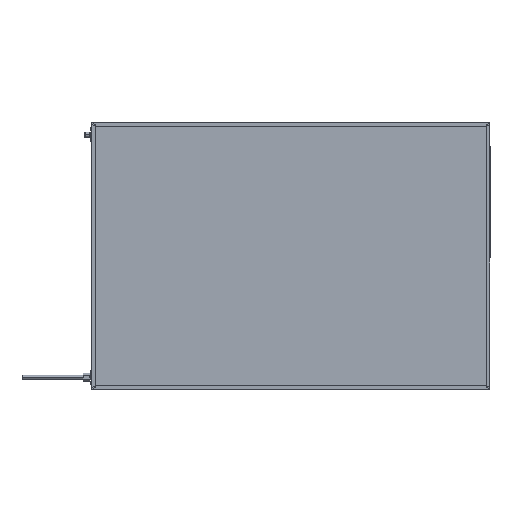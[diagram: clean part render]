
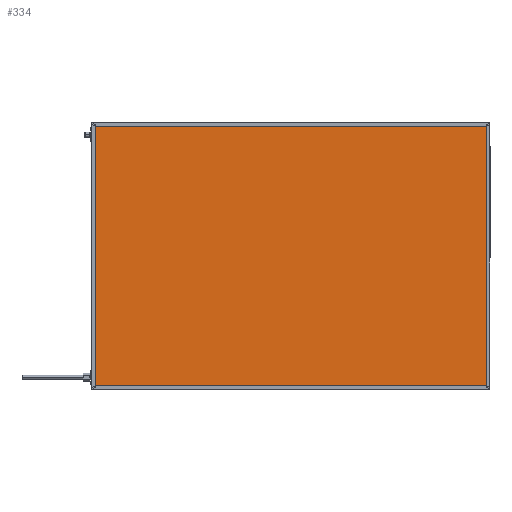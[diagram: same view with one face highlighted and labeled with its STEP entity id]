
A CAD part, top view. The second image highlights one B-rep face of the part: STEP entity #334.
In plain terms, the highlighted planar face has unit normal (0, 0, 1).
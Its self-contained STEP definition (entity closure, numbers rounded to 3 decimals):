
#334 = ADVANCED_FACE ( 'NONE', ( #14390 ), #7457, .F. ) ;
#733 = LINE ( 'NONE', #10409, #12434 ) ;
#1199 = VERTEX_POINT ( 'NONE', #14437 ) ;
#1627 = CARTESIAN_POINT ( 'NONE',  ( 0., 596., 41.85 ) ) ;
#2447 = ORIENTED_EDGE ( 'NONE', *, *, #17156, .T. ) ;
#2751 = AXIS2_PLACEMENT_3D ( 'NONE', #15851, #9184, #7360 ) ;
#2990 = LINE ( 'NONE', #14302, #10081 ) ;
#3574 = VERTEX_POINT ( 'NONE', #9454 ) ;
#5440 = EDGE_CURVE ( 'NONE', #3574, #1199, #733, .T. ) ;
#5740 = DIRECTION ( 'NONE',  ( -1., 0., 0. ) ) ;
#7360 = DIRECTION ( 'NONE',  ( -1., 0., 0. ) ) ;
#7404 = LINE ( 'NONE', #17170, #14876 ) ;
#7457 = PLANE ( 'NONE',  #2751 ) ;
#8789 = ORIENTED_EDGE ( 'NONE', *, *, #5440, .T. ) ;
#9184 = DIRECTION ( 'NONE',  ( 0., 0., -1. ) ) ;
#9377 = EDGE_CURVE ( 'NONE', #10659, #14962, #2990, .T. ) ;
#9454 = CARTESIAN_POINT ( 'NONE',  ( 896., 4., 41.85 ) ) ;
#10081 = VECTOR ( 'NONE', #14113, 1000. ) ;
#10254 = ORIENTED_EDGE ( 'NONE', *, *, #10705, .T. ) ;
#10409 = CARTESIAN_POINT ( 'NONE',  ( 896., 0., 41.85 ) ) ;
#10659 = VERTEX_POINT ( 'NONE', #13959 ) ;
#10705 = EDGE_CURVE ( 'NONE', #1199, #10659, #12679, .T. ) ;
#12434 = VECTOR ( 'NONE', #15981, 1000. ) ;
#12679 = LINE ( 'NONE', #1627, #13910 ) ;
#12976 = DIRECTION ( 'NONE',  ( 1., 0., 0. ) ) ;
#13910 = VECTOR ( 'NONE', #5740, 1000. ) ;
#13959 = CARTESIAN_POINT ( 'NONE',  ( 4., 596., 41.85 ) ) ;
#14113 = DIRECTION ( 'NONE',  ( 0., -1., 0. ) ) ;
#14302 = CARTESIAN_POINT ( 'NONE',  ( 4., 0., 41.85 ) ) ;
#14338 = EDGE_LOOP ( 'NONE', ( #8789, #10254, #14385, #2447 ) ) ;
#14385 = ORIENTED_EDGE ( 'NONE', *, *, #9377, .T. ) ;
#14390 = FACE_OUTER_BOUND ( 'NONE', #14338, .T. ) ;
#14437 = CARTESIAN_POINT ( 'NONE',  ( 896., 596., 41.85 ) ) ;
#14876 = VECTOR ( 'NONE', #12976, 1000. ) ;
#14962 = VERTEX_POINT ( 'NONE', #17494 ) ;
#15851 = CARTESIAN_POINT ( 'NONE',  ( 0., 0., 41.85 ) ) ;
#15981 = DIRECTION ( 'NONE',  ( 0., 1., 0. ) ) ;
#17156 = EDGE_CURVE ( 'NONE', #14962, #3574, #7404, .T. ) ;
#17170 = CARTESIAN_POINT ( 'NONE',  ( 0., 4., 41.85 ) ) ;
#17494 = CARTESIAN_POINT ( 'NONE',  ( 4., 4., 41.85 ) ) ;
